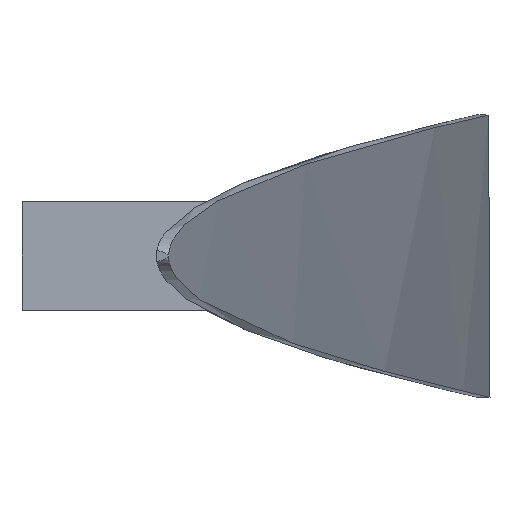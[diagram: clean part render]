
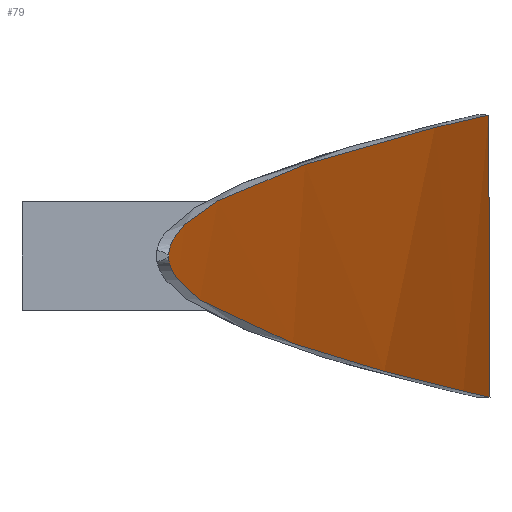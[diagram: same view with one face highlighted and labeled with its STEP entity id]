
A CAD part, left-side view. The second image highlights one B-rep face of the part: STEP entity #79.
In plain terms, the highlighted cylindrical face has radius 36664.4 mm (diameter 73328.8 mm), a partial arc.
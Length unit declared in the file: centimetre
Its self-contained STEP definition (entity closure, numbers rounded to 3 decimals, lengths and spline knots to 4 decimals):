
#79=ADVANCED_FACE('',(#121),#523,.T.);
#121=FACE_OUTER_BOUND('',#163,.T.);
#163=EDGE_LOOP('',(#311,#312,#313));
#311=ORIENTED_EDGE('',*,*,#379,.T.);
#312=ORIENTED_EDGE('',*,*,#381,.T.);
#313=ORIENTED_EDGE('',*,*,#388,.T.);
#379=EDGE_CURVE('',#502,#510,#458,.T.);
#381=EDGE_CURVE('',#510,#504,#460,.T.);
#388=EDGE_CURVE('',#504,#502,#463,.T.);
#458=B_SPLINE_CURVE_WITH_KNOTS('',3,(#1178,#1179,#1180,#1181,#1182,#1183,
#1184,#1185,#1186,#1187,#1188,#1189,#1190,#1191,#1192,#1193,#1194,#1195),
 .UNSPECIFIED.,.F.,.F.,(4,2,2,2,2,2,2,2,4),(0.,90.314,180.6279,
270.9397,361.2514,451.5559,541.8604,632.1685,
722.4766),.UNSPECIFIED.);
#460=B_SPLINE_CURVE_WITH_KNOTS('',3,(#1214,#1215,#1216,#1217,#1218,#1219,
#1220,#1221,#1222,#1223,#1224,#1225,#1226,#1227,#1228,#1229,#1230,#1231),
 .UNSPECIFIED.,.F.,.F.,(4,2,2,2,2,2,2,2,4),(722.4766,812.7847,
903.0928,993.3973,1083.7018,1174.0125,1264.3233,
1354.6382,1444.9532),.UNSPECIFIED.);
#463=B_SPLINE_CURVE_WITH_KNOTS('',3,(#1248,#1249,#1250,#1251,#1252,#1253,
#1254,#1255,#1256,#1257,#1258,#1259,#1260,#1261,#1262,#1263,#1264,#1265,
#1266,#1267,#1268,#1269,#1270,#1271,#1272,#1273,#1274,#1275,#1276,#1277,
#1278,#1279,#1280,#1281,#1282,#1283,#1284,#1285,#1286,#1287,#1288,#1289,
#1290,#1291,#1292,#1293,#1294,#1295,#1296,#1297,#1298,#1299,#1300,#1301,
#1302,#1303,#1304,#1305),.UNSPECIFIED.,.F.,.F.,(4,2,2,2,2,2,2,2,2,2,2,2,
2,2,2,2,2,2,2,2,2,2,2,2,2,2,2,2,4),(1444.9532,1446.3537,1447.7543,
1450.5554,1456.1576,1467.3619,1489.7707,1512.1794,
1534.5882,1579.4057,1624.2231,1714.7202,1805.2172,
1986.2085,2167.1996,2348.1907,2529.183,2619.6788,
2710.1747,2754.9934,2799.8122,2822.2216,2844.631,
2867.0404,2878.2451,2883.8474,2886.6486,2888.0492,
2889.4498),.UNSPECIFIED.);
#502=VERTEX_POINT('',#1115);
#504=VERTEX_POINT('',#1117);
#510=VERTEX_POINT('',#1123);
#523=CYLINDRICAL_SURFACE('',#658,3666.439);
#658=AXIS2_PLACEMENT_3D('',#1114,#691,$);
#691=DIRECTION('',(0.,0.,1.));
#1114=CARTESIAN_POINT('',(2470.2959,5030.8759,-273.5974));
#1115=CARTESIAN_POINT('',(1710.2959,1444.0703,-273.5974));
#1117=CARTESIAN_POINT('',(3230.2959,1444.0703,-273.5974));
#1123=CARTESIAN_POINT('',(2470.2959,1364.437,-308.6074));
#1178=CARTESIAN_POINT('',(1710.2959,1444.0703,-273.5974));
#1179=CARTESIAN_POINT('',(1710.2959,1444.0703,-275.6747));
#1180=CARTESIAN_POINT('',(1714.3341,1443.2058,-277.8278));
#1181=CARTESIAN_POINT('',(1731.9601,1439.5367,-282.1855));
#1182=CARTESIAN_POINT('',(1745.5604,1436.7298,-284.3872));
#1183=CARTESIAN_POINT('',(1782.7975,1429.4187,-288.6954));
#1184=CARTESIAN_POINT('',(1806.4395,1424.9217,-290.8017));
#1185=CARTESIAN_POINT('',(1863.0685,1414.953,-294.7787));
#1186=CARTESIAN_POINT('',(1896.0557,1409.4939,-296.6495));
#1187=CARTESIAN_POINT('',(1969.6753,1398.5851,-300.0402));
#1188=CARTESIAN_POINT('',(2010.2985,1393.1474,-301.5598));
#1189=CARTESIAN_POINT('',(2096.6789,1383.2642,-304.1688));
#1190=CARTESIAN_POINT('',(2142.4212,1378.8257,-305.2579));
#1191=CARTESIAN_POINT('',(2235.9932,1371.63,-306.9733));
#1192=CARTESIAN_POINT('',(2283.7922,1368.8774,-307.5995));
#1193=CARTESIAN_POINT('',(2378.4133,1365.2832,-308.4113));
#1194=CARTESIAN_POINT('',(2425.2003,1364.437,-308.5974));
#1195=CARTESIAN_POINT('',(2470.2959,1364.437,-308.5974));
#1214=CARTESIAN_POINT('',(2470.2959,1364.437,-308.5974));
#1215=CARTESIAN_POINT('',(2515.3914,1364.437,-308.5974));
#1216=CARTESIAN_POINT('',(2562.1785,1365.2832,-308.4113));
#1217=CARTESIAN_POINT('',(2656.7996,1368.8774,-307.5995));
#1218=CARTESIAN_POINT('',(2704.5985,1371.63,-306.9733));
#1219=CARTESIAN_POINT('',(2798.1705,1378.8257,-305.2579));
#1220=CARTESIAN_POINT('',(2843.9128,1383.2642,-304.1688));
#1221=CARTESIAN_POINT('',(2930.2932,1393.1474,-301.5598));
#1222=CARTESIAN_POINT('',(2970.9164,1398.5851,-300.0402));
#1223=CARTESIAN_POINT('',(3044.5356,1409.4938,-296.6495));
#1224=CARTESIAN_POINT('',(3077.5225,1414.9529,-294.7787));
#1225=CARTESIAN_POINT('',(3134.1511,1424.9215,-290.8018));
#1226=CARTESIAN_POINT('',(3157.793,1429.4185,-288.6955));
#1227=CARTESIAN_POINT('',(3195.0306,1436.7296,-284.3873));
#1228=CARTESIAN_POINT('',(3208.6311,1439.5366,-282.1856));
#1229=CARTESIAN_POINT('',(3226.2575,1443.2058,-277.8278));
#1230=CARTESIAN_POINT('',(3230.2959,1444.0703,-275.6747));
#1231=CARTESIAN_POINT('',(3230.2959,1444.0703,-273.5974));
#1248=CARTESIAN_POINT('',(3230.2959,1444.0703,-273.5974));
#1249=CARTESIAN_POINT('',(3230.2959,1444.0703,-272.9964));
#1250=CARTESIAN_POINT('',(3229.9573,1443.9986,-272.4683));
#1251=CARTESIAN_POINT('',(3229.1355,1443.8246,-271.6163));
#1252=CARTESIAN_POINT('',(3228.7106,1443.7347,-271.3229));
#1253=CARTESIAN_POINT('',(3227.4746,1443.4736,-270.5329));
#1254=CARTESIAN_POINT('',(3226.6075,1443.2906,-270.1316));
#1255=CARTESIAN_POINT('',(3223.8227,1442.7043,-268.973));
#1256=CARTESIAN_POINT('',(3221.797,1442.2795,-268.3514));
#1257=CARTESIAN_POINT('',(3216.0934,1441.0882,-266.7779));
#1258=CARTESIAN_POINT('',(3212.0563,1440.2518,-265.9394));
#1259=CARTESIAN_POINT('',(3200.4495,1437.8671,-263.7713));
#1260=CARTESIAN_POINT('',(3192.0788,1436.1762,-262.5901));
#1261=CARTESIAN_POINT('',(3176.6385,1433.1104,-260.6367));
#1262=CARTESIAN_POINT('',(3168.8999,1431.5997,-259.7897));
#1263=CARTESIAN_POINT('',(3153.3969,1428.6252,-258.2318));
#1264=CARTESIAN_POINT('',(3145.6342,1427.1618,-257.5262));
#1265=CARTESIAN_POINT('',(3122.3186,1422.8445,-255.5531));
#1266=CARTESIAN_POINT('',(3106.7418,1420.0641,-254.4277));
#1267=CARTESIAN_POINT('',(3075.539,1414.7031,-252.3926));
#1268=CARTESIAN_POINT('',(3059.9136,1412.1225,-251.4863));
#1269=CARTESIAN_POINT('',(3012.676,1404.6352,-248.9799));
#1270=CARTESIAN_POINT('',(2981.0074,1400.0395,-247.6094));
#1271=CARTESIAN_POINT('',(2917.5403,1391.6766,-245.237));
#1272=CARTESIAN_POINT('',(2885.7452,1387.9099,-244.2405));
#1273=CARTESIAN_POINT('',(2790.2184,1377.8601,-241.6681));
#1274=CARTESIAN_POINT('',(2726.345,1372.8278,-240.5032));
#1275=CARTESIAN_POINT('',(2598.413,1366.1162,-238.9643));
#1276=CARTESIAN_POINT('',(2534.3545,1364.437,-238.5974));
#1277=CARTESIAN_POINT('',(2406.2374,1364.437,-238.5974));
#1278=CARTESIAN_POINT('',(2342.1789,1366.1162,-238.9643));
#1279=CARTESIAN_POINT('',(2214.2467,1372.8278,-240.5031));
#1280=CARTESIAN_POINT('',(2150.3739,1377.86,-241.6681));
#1281=CARTESIAN_POINT('',(2054.8471,1387.9098,-244.2403));
#1282=CARTESIAN_POINT('',(2023.0527,1391.6765,-245.2369));
#1283=CARTESIAN_POINT('',(1959.5864,1400.0393,-247.6095));
#1284=CARTESIAN_POINT('',(1927.9151,1404.6353,-248.9797));
#1285=CARTESIAN_POINT('',(1880.6782,1412.1225,-251.4863));
#1286=CARTESIAN_POINT('',(1865.0523,1414.7032,-252.3925));
#1287=CARTESIAN_POINT('',(1833.8491,1420.0643,-254.4279));
#1288=CARTESIAN_POINT('',(1818.2717,1422.8447,-255.5531));
#1289=CARTESIAN_POINT('',(1794.9557,1427.1622,-257.5264));
#1290=CARTESIAN_POINT('',(1787.1929,1428.6256,-258.2322));
#1291=CARTESIAN_POINT('',(1771.6892,1431.6002,-259.7897));
#1292=CARTESIAN_POINT('',(1763.9489,1433.1113,-260.6378));
#1293=CARTESIAN_POINT('',(1748.5078,1436.1773,-262.59));
#1294=CARTESIAN_POINT('',(1740.0195,1437.892,-263.7902));
#1295=CARTESIAN_POINT('',(1728.4103,1440.2776,-265.9649));
#1296=CARTESIAN_POINT('',(1724.2721,1441.1352,-266.8303));
#1297=CARTESIAN_POINT('',(1718.5734,1442.3259,-268.4181));
#1298=CARTESIAN_POINT('',(1716.7401,1442.7104,-268.9831));
#1299=CARTESIAN_POINT('',(1714.0375,1443.2794,-270.1097));
#1300=CARTESIAN_POINT('',(1713.1545,1443.4657,-270.5137));
#1301=CARTESIAN_POINT('',(1711.915,1443.7276,-271.2997));
#1302=CARTESIAN_POINT('',(1711.4807,1443.8194,-271.596));
#1303=CARTESIAN_POINT('',(1710.6412,1443.9971,-272.458));
#1304=CARTESIAN_POINT('',(1710.2959,1444.0703,-272.9917));
#1305=CARTESIAN_POINT('',(1710.2959,1444.0703,-273.5974));
